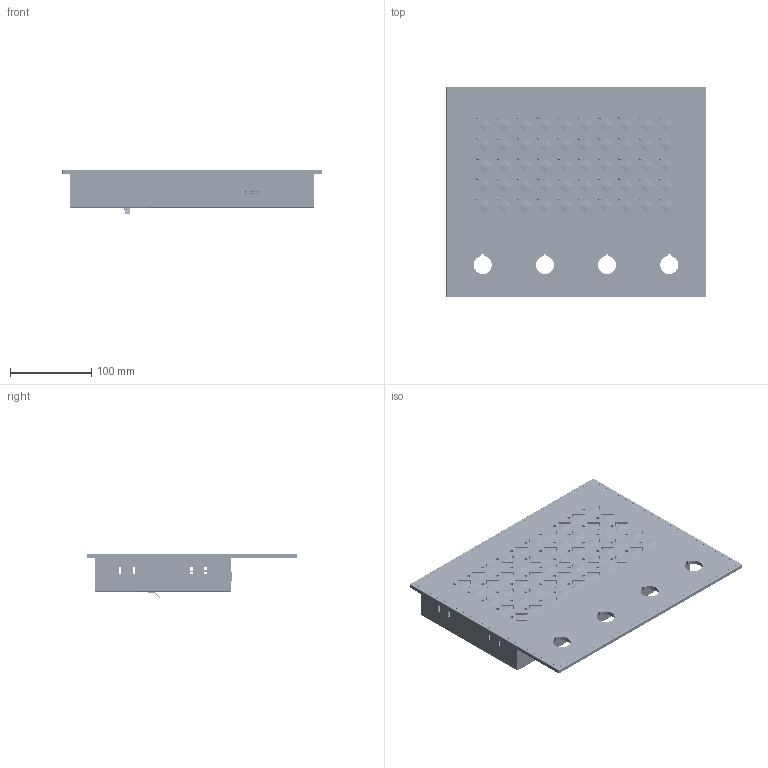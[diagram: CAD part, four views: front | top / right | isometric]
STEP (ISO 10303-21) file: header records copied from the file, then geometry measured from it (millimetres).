
FILE_DESCRIPTION (( 'STEP AP214' ), '1' );
FILE_NAME ('TE501 support.STEP', '2016-06-01T05:10:18', ( 'SIGMATEK GmbH & Co KG' ), ( 'SIGMATEK GmbH & Co KG' ), 'SwSTEP 2.0', 'SolidWorks 2015', '' );
FILE_SCHEMA (( 'AUTOMOTIVE_DESIGN' ));
Length unit declared in the file: millimetre
Products named in the file (16): TE501 support; 100801_2012 support; Leiterplatte Keyboard_100401_1_20110809; 4080216014 _Connector 14 Poles; 4080216034 Cable Connector 0918 134 9621; 1010141014 LED rot 3mm LTL1CHE-012A; 7297771011_RF 15 Taste; 61501_110505 support; 7297771153_DIP-switch_BD08AV2; 4080225148 8pol. Stiftleiste 2reihig 1807480000; 61501_110505; Folie Keyboard ETV 12 Zoll; Gehäuse für Keyboard ETV_12Zoll; Front Keyboard ETV12 Zoll; Steckzunge 6,3 m.B. M3 DIN46244 St-verzinnt
Assembly tree (114 placements, depth 3):
  TE501 support
    Steckzunge 6,3 m.B. M3 DIN46244 St-verzinnt
    Front Keyboard ETV12 Zoll
    Gehäuse für Keyboard ETV_12Zoll
    Folie Keyboard ETV 12 Zoll
    61501_110505 support
      61501_110505
      4080225148 8pol. Stiftleiste 2reihig 1807480000  x2
      7297771153_DIP-switch_BD08AV2
    Leiterplatte Keyboard_100401_1_20110809
      Leiterplatte Keyboard_100401_1_20110809
      7297771011_RF 15 Taste  x50
      1010141014 LED rot 3mm LTL1CHE-012A  x50
      4080216034 Cable Connector 0918 134 9621
      4080216014 _Connector 14 Poles
    100801_2012 support
Bounding box: 320 x 260 x 55.45 mm (x, y, z)
Volume: 571041.4 mm3; surface area: 670176.2 mm2
Topology: 112 solids, 112 shells, 8750 faces, 22866 edges, 14876 vertices
Faces by surface type: plane 4860, cylinder 3228, cone 300, bspline 158, sphere 104, torus 100
Entity records: 88911 total; most frequent: CARTESIAN_POINT 14895, DIRECTION 14495, ORIENTED_EDGE 13734, EDGE_CURVE 6867, AXIS2_PLACEMENT_3D 5214, VERTEX_POINT 4550, LINE 4067, VECTOR 4067
